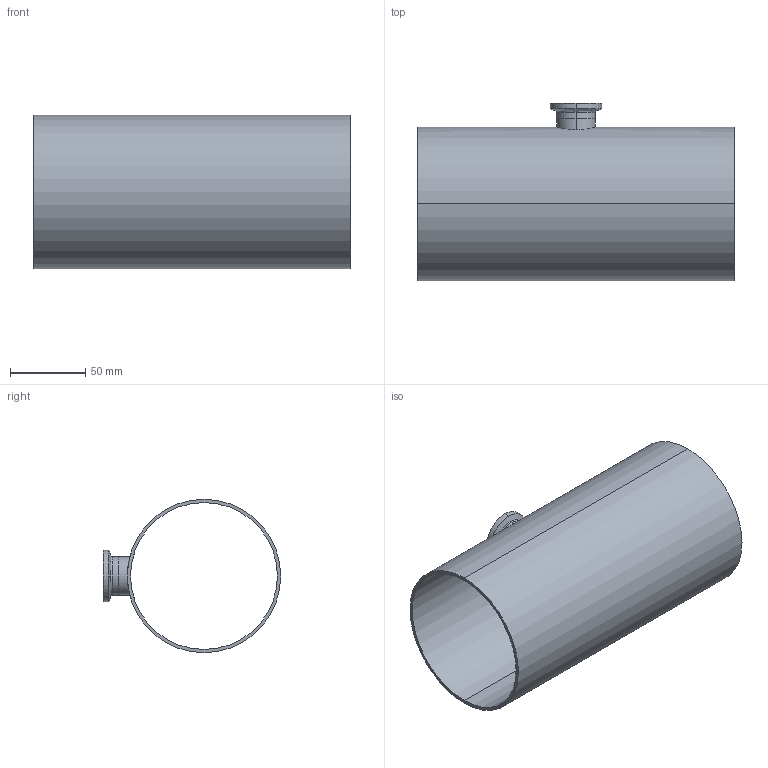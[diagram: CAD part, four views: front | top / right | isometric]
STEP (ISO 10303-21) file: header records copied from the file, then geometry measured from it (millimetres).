
FILE_DESCRIPTION (( 'STEP AP214' ), '1' );
FILE_NAME ('TE7RWWCS6L4.0x1.0-..Type A.STEP', '2016-05-23T12:27:44', ( 'eran' ), ( '' ), 'SwSTEP 2.0', 'SolidWorks 2016', '' );
FILE_SCHEMA (( 'AUTOMOTIVE_DESIGN' ));
Length unit declared in the file: millimetre
Products named in the file (1): TE7RWWCS6L4.0x1.0-..Type A
Bounding box: 209.6 x 117.5 x 101.6 mm (x, y, z)
Volume: 140740.1 mm3; surface area: 135373.9 mm2
Topology: 2 solids, 2 shells, 34 faces, 74 edges, 46 vertices
Faces by surface type: cylinder 16, bspline 8, plane 6, cone 4
Entity records: 1279 total; most frequent: CARTESIAN_POINT 487, DIRECTION 166, ORIENTED_EDGE 148, EDGE_CURVE 74, AXIS2_PLACEMENT_3D 73, VERTEX_POINT 46, CIRCLE 46, EDGE_LOOP 42
